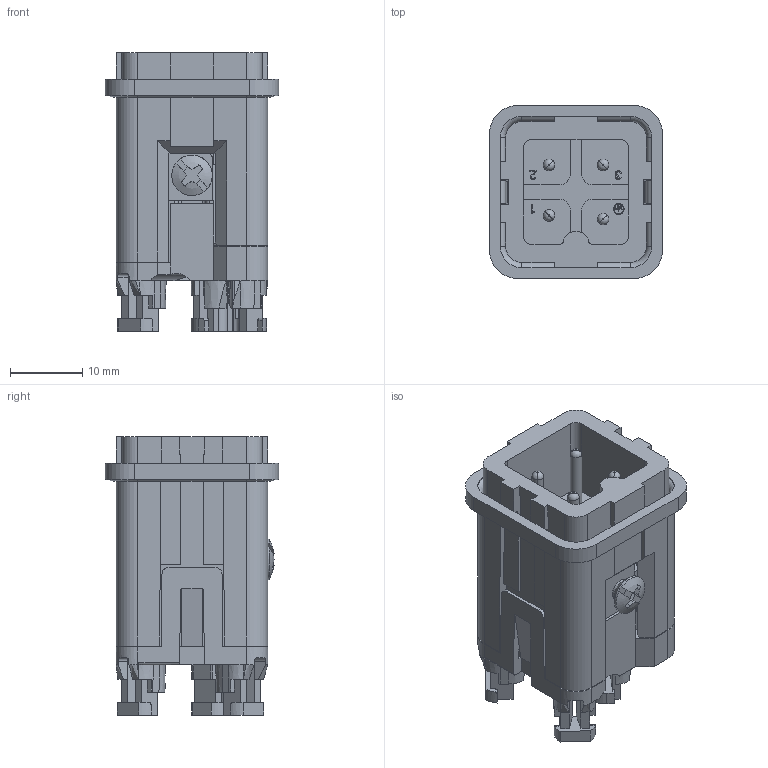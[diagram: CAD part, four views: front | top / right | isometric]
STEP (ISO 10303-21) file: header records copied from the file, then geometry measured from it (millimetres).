
FILE_DESCRIPTION(('Creo Elements/Direct Modeling STEP Export'),'2;1');
FILE_NAME('C:/Users/TECCAD~1/AppData/Local/Temp/0ln7uvk4557olrt3652/0ln7uvk4557olru3652','2016-10-10T15:34:46',(''),(''),'PTC Creo Elements/Direct Modeling STEP processor for AP214 (Solid Model)','PTC Creo Elements/Direct Modeling 19.0E 27-Jun-2016 (C) Parametric Technology GmbH','');
FILE_SCHEMA(('AUTOMOTIVE_DESIGN { 1 0 10303 214 1 1 1 1 }'));
Length unit declared in the file: millimetre
Products named in the file (2): CKSHM_03
Assembly tree (1 placements, depth 2):
  CKSHM_03
    CKSHM_03
Bounding box: 24 x 24 x 38.6 mm (x, y, z)
Volume: 10767.1 mm3; surface area: 7986.6 mm2
Topology: 1 solids, 5 shells, 964 faces, 3087 edges, 2119 vertices
Faces by surface type: plane 659, cylinder 198, cone 64, torus 30, bspline 9, sphere 4
Entity records: 43205 total; most frequent: CARTESIAN_POINT 8814, ORIENTED_EDGE 6170, DIRECTION 5070, EDGE_CURVE 3085, VECTOR 2248, LINE 2248, VERTEX_POINT 2119, AXIS2_PLACEMENT_3D 1411
